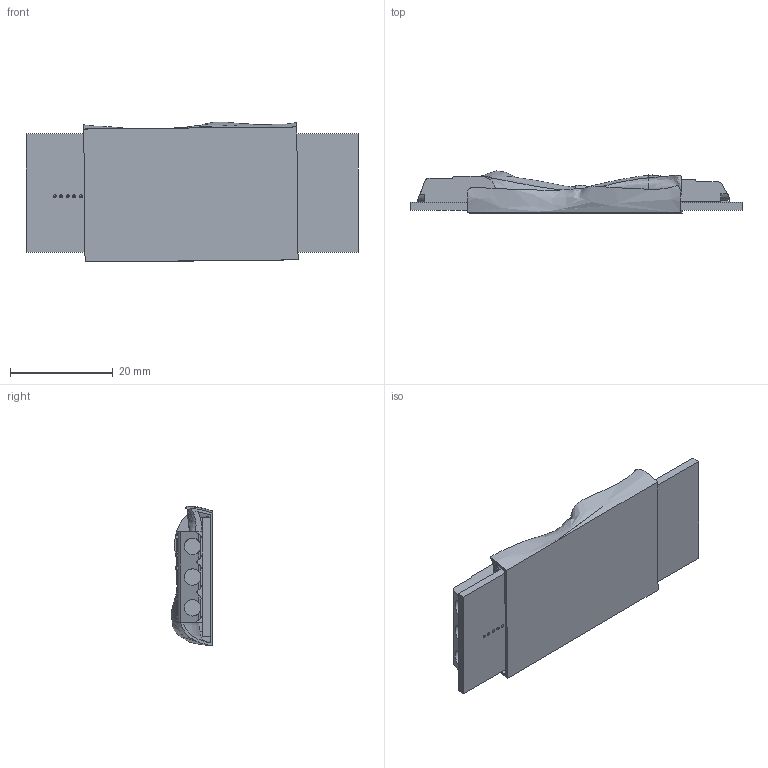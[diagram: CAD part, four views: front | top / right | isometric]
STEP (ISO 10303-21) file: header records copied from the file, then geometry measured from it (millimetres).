
FILE_DESCRIPTION (( 'STEP AP214' ), '1' );
FILE_NAME ('VDW-Assembly.STEP', '2021-09-29T17:03:17', ( '' ), ( '' ), 'SwSTEP 2.0', 'SolidWorks 2021', '' );
FILE_SCHEMA (( 'AUTOMOTIVE_DESIGN' ));
Length unit declared in the file: inch
Products named in the file (6): Wrap-Assembly-Part; APTVFWV01_10302020_12-30-38; 2061-603_998-404; VDW-Assembly; Wrap-VDW; WAGO_2PIN
Assembly tree (6 placements, depth 2):
  VDW-Assembly
    APTVFWV01_10302020_12-30-38
    WAGO_2PIN
    2061-603_998-404
    Wrap-VDW
    Wrap-Assembly-Part  x2
Bounding box: 64.77 x 8.19 x 27.27 mm (x, y, z)
Volume: 4860.1 mm3; surface area: 10901.7 mm2
Topology: 6 solids, 6 shells, 570 faces, 1634 edges, 1088 vertices
Faces by surface type: plane 335, cylinder 203, bspline 26, sphere 6
Entity records: 46560 total; most frequent: CARTESIAN_POINT 28816, ORIENTED_EDGE 3256, DIRECTION 3009, EDGE_CURVE 1628, VERTEX_POINT 1084, VECTOR 1065, LINE 1065, AXIS2_PLACEMENT_3D 972
